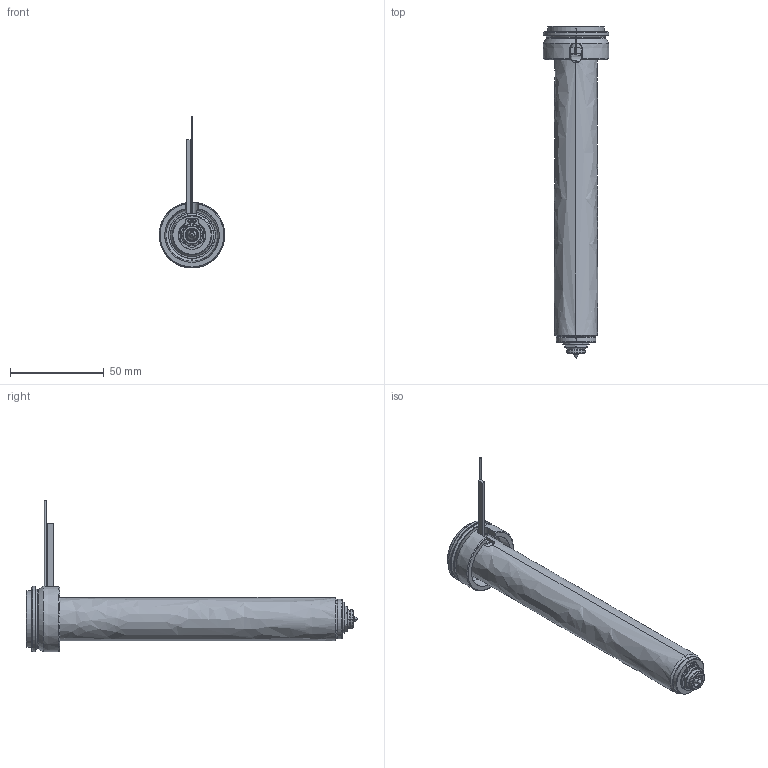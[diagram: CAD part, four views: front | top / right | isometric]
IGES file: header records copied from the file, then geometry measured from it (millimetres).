
Start section: SolidWorks IGES file using analytic representation for surfaces
Global section: file name: C:\Documents and Settings\ws-20\Desktop\TEM\UGEP3054-M-A-1 [Øf-0.70 ØC-6.0].IGS; native system: SolidWorks 2012; preprocessor: SolidWorks 2012; author: ws-20; date: 120402.112922; units: millimetre
Bounding box: 35 x 176.8 x 80.9 mm (x, y, z)
Surface area: 25237.9 mm2 (no closed solid volume)
Topology: 0 solids, 0 shells, 129 faces, 1784 edges, 1784 vertices
Faces by surface type: revolution 79, bspline 50
